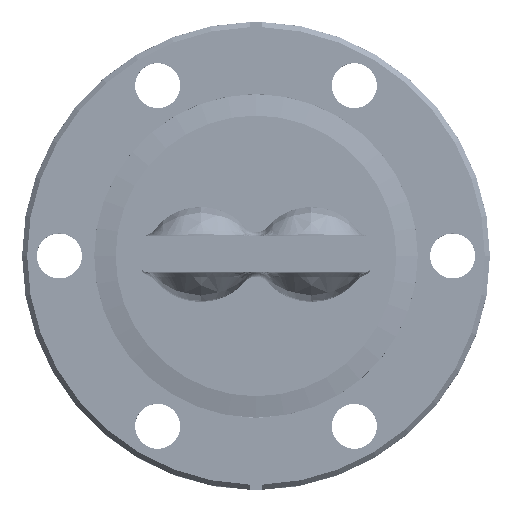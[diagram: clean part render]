
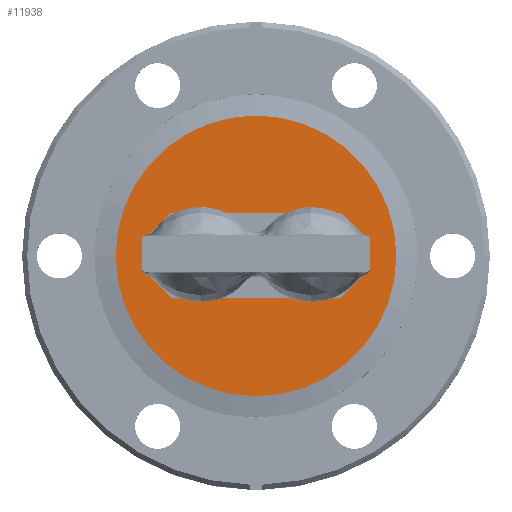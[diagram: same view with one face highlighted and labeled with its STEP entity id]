
A CAD part, top view. The second image highlights one B-rep face of the part: STEP entity #11938.
In plain terms, the highlighted planar face has unit normal (0, 0, 1).
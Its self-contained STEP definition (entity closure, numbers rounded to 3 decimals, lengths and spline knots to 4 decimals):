
#223=FACE_BOUND('',#2752,.T.);
#224=FACE_BOUND('',#2753,.T.);
#225=FACE_BOUND('',#2754,.T.);
#347=PLANE('',#12986);
#675=B_SPLINE_CURVE_WITH_KNOTS('',3,(#17679,#17680,#17681,#17682,#17683,
#17684,#17685,#17686,#17687,#17688,#17689,#17690,#17691,#17692,#17693,#17694,
#17695,#17696,#17697,#17698,#17699,#17700,#17701,#17702,#17703),
 .UNSPECIFIED.,.F.,.F.,(4,3,3,3,3,3,3,3,4),(0.,0.0268,0.0441,
0.0652,0.0816,0.0959,0.1108,
0.136,0.1605),.UNSPECIFIED.);
#679=B_SPLINE_CURVE_WITH_KNOTS('',3,(#18148,#18149,#18150,#18151,#18152,
#18153,#18154,#18155,#18156,#18157,#18158,#18159,#18160,#18161,#18162,#18163,
#18164,#18165,#18166,#18167,#18168,#18169,#18170,#18171,#18172,#18173,#18174,
#18175,#18176,#18177,#18178),.UNSPECIFIED.,.F.,.F.,(4,3,3,3,3,3,3,3,3,3,
4),(0.,0.0276,0.0404,0.054,0.0795,
0.0936,0.1037,0.1183,0.133,
0.1513,0.1612),.UNSPECIFIED.);
#2025=FACE_OUTER_BOUND('',#2751,.T.);
#2751=EDGE_LOOP('',(#8623));
#2752=EDGE_LOOP('',(#8624,#8625,#8626,#8627));
#2753=EDGE_LOOP('',(#8628));
#2754=EDGE_LOOP('',(#8629));
#4331=CIRCLE('',#12687,0.0351);
#4333=CIRCLE('',#12703,0.043);
#4358=CIRCLE('',#12736,0.2475);
#4423=CIRCLE('',#12836,0.2475);
#4500=CIRCLE('',#12954,0.825);
#4782=VERTEX_POINT('',#16882);
#4783=VERTEX_POINT('',#16896);
#4814=VERTEX_POINT('',#17243);
#4815=VERTEX_POINT('',#17249);
#4836=VERTEX_POINT('',#18262);
#4908=VERTEX_POINT('',#18583);
#4992=VERTEX_POINT('',#18940);
#6055=EDGE_CURVE('',#4783,#4782,#4331,.T.);
#6099=EDGE_CURVE('',#4815,#4814,#4333,.T.);
#6104=EDGE_CURVE('',#4782,#4815,#675,.T.);
#6108=EDGE_CURVE('',#4814,#4783,#679,.T.);
#6133=EDGE_CURVE('',#4836,#4836,#4358,.T.);
#6245=EDGE_CURVE('',#4908,#4908,#4423,.T.);
#6375=EDGE_CURVE('',#4992,#4992,#4500,.T.);
#8623=ORIENTED_EDGE('',*,*,#6375,.T.);
#8624=ORIENTED_EDGE('',*,*,#6108,.T.);
#8625=ORIENTED_EDGE('',*,*,#6055,.T.);
#8626=ORIENTED_EDGE('',*,*,#6104,.T.);
#8627=ORIENTED_EDGE('',*,*,#6099,.T.);
#8628=ORIENTED_EDGE('',*,*,#6133,.F.);
#8629=ORIENTED_EDGE('',*,*,#6245,.F.);
#11938=ADVANCED_FACE('',(#2025,#223,#224,#225),#347,.T.);
#12687=AXIS2_PLACEMENT_3D('',#16897,#13779,#13780);
#12703=AXIS2_PLACEMENT_3D('',#17250,#13825,#13826);
#12736=AXIS2_PLACEMENT_3D('',#18263,#13891,#13892);
#12836=AXIS2_PLACEMENT_3D('',#18584,#14126,#14127);
#12954=AXIS2_PLACEMENT_3D('',#18941,#14403,#14404);
#12986=AXIS2_PLACEMENT_3D('',#19026,#14488,#14489);
#13779=DIRECTION('center_axis',(0.,0.,-1.));
#13780=DIRECTION('ref_axis',(-1.,0.,0.));
#13825=DIRECTION('center_axis',(0.,0.,-1.));
#13826=DIRECTION('ref_axis',(-1.,0.,0.));
#13891=DIRECTION('center_axis',(0.,0.,1.));
#13892=DIRECTION('ref_axis',(1.,0.,0.));
#14126=DIRECTION('center_axis',(0.,0.,1.));
#14127=DIRECTION('ref_axis',(1.,0.,0.));
#14403=DIRECTION('center_axis',(0.,0.,1.));
#14404=DIRECTION('ref_axis',(-1.,0.,0.));
#14488=DIRECTION('center_axis',(0.,0.,1.));
#14489=DIRECTION('ref_axis',(-1.,0.,0.));
#16882=CARTESIAN_POINT('',(-0.0303,-0.0177,0.));
#16896=CARTESIAN_POINT('',(0.0303,-0.0177,0.));
#16897=CARTESIAN_POINT('Origin',(0.,0.,0.));
#17243=CARTESIAN_POINT('',(0.0204,0.0379,0.));
#17249=CARTESIAN_POINT('',(-0.0203,0.0378,0.));
#17250=CARTESIAN_POINT('Origin',(0.,0.,0.));
#17679=CARTESIAN_POINT('Ctrl Pts',(-0.0303,-0.0177,
0.));
#17680=CARTESIAN_POINT('Ctrl Pts',(-0.0325,-0.0149,
0.));
#17681=CARTESIAN_POINT('Ctrl Pts',(-0.0342,-0.0119,
0.));
#17682=CARTESIAN_POINT('Ctrl Pts',(-0.0354,-0.0086,
0.));
#17683=CARTESIAN_POINT('Ctrl Pts',(-0.0363,-0.0065,
0.));
#17684=CARTESIAN_POINT('Ctrl Pts',(-0.0369,-0.0043,
0.));
#17685=CARTESIAN_POINT('Ctrl Pts',(-0.0373,-0.002,
0.));
#17686=CARTESIAN_POINT('Ctrl Pts',(-0.0378,0.0007,
0.));
#17687=CARTESIAN_POINT('Ctrl Pts',(-0.038,0.0035,
0.));
#17688=CARTESIAN_POINT('Ctrl Pts',(-0.038,0.0062,
0.));
#17689=CARTESIAN_POINT('Ctrl Pts',(-0.0379,0.0084,
0.));
#17690=CARTESIAN_POINT('Ctrl Pts',(-0.0377,0.0106,
0.));
#17691=CARTESIAN_POINT('Ctrl Pts',(-0.0373,0.0127,
0.));
#17692=CARTESIAN_POINT('Ctrl Pts',(-0.0369,0.0145,
0.));
#17693=CARTESIAN_POINT('Ctrl Pts',(-0.0364,0.0163,
0.));
#17694=CARTESIAN_POINT('Ctrl Pts',(-0.0358,0.018,
0.));
#17695=CARTESIAN_POINT('Ctrl Pts',(-0.0351,0.0199,
0.));
#17696=CARTESIAN_POINT('Ctrl Pts',(-0.0343,0.0216,
0.));
#17697=CARTESIAN_POINT('Ctrl Pts',(-0.0334,0.0233,
0.));
#17698=CARTESIAN_POINT('Ctrl Pts',(-0.0318,0.0262,
0.));
#17699=CARTESIAN_POINT('Ctrl Pts',(-0.0299,0.0289,
0.));
#17700=CARTESIAN_POINT('Ctrl Pts',(-0.0276,0.0314,
0.));
#17701=CARTESIAN_POINT('Ctrl Pts',(-0.0254,0.0338,
0.));
#17702=CARTESIAN_POINT('Ctrl Pts',(-0.023,0.0359,
0.));
#17703=CARTESIAN_POINT('Ctrl Pts',(-0.0203,0.0378,
0.));
#18148=CARTESIAN_POINT('Ctrl Pts',(0.0204,0.0379,
0.));
#18149=CARTESIAN_POINT('Ctrl Pts',(0.0234,0.0358,
0.));
#18150=CARTESIAN_POINT('Ctrl Pts',(0.026,0.0333,
0.));
#18151=CARTESIAN_POINT('Ctrl Pts',(0.0284,0.0306,
0.));
#18152=CARTESIAN_POINT('Ctrl Pts',(0.0294,0.0293,
0.));
#18153=CARTESIAN_POINT('Ctrl Pts',(0.0304,0.0279,
0.));
#18154=CARTESIAN_POINT('Ctrl Pts',(0.0314,0.0265,
0.));
#18155=CARTESIAN_POINT('Ctrl Pts',(0.0323,0.025,
0.));
#18156=CARTESIAN_POINT('Ctrl Pts',(0.0332,0.0235,
0.));
#18157=CARTESIAN_POINT('Ctrl Pts',(0.034,0.0219,
0.));
#18158=CARTESIAN_POINT('Ctrl Pts',(0.0355,0.0189,
0.));
#18159=CARTESIAN_POINT('Ctrl Pts',(0.0366,0.0157,
0.));
#18160=CARTESIAN_POINT('Ctrl Pts',(0.0373,0.0125,
0.));
#18161=CARTESIAN_POINT('Ctrl Pts',(0.0376,0.0107,
0.));
#18162=CARTESIAN_POINT('Ctrl Pts',(0.0379,0.0089,
0.));
#18163=CARTESIAN_POINT('Ctrl Pts',(0.038,0.0071,
0.));
#18164=CARTESIAN_POINT('Ctrl Pts',(0.0381,0.0057,
0.));
#18165=CARTESIAN_POINT('Ctrl Pts',(0.0381,0.0044,
0.));
#18166=CARTESIAN_POINT('Ctrl Pts',(0.038,0.0031,
0.));
#18167=CARTESIAN_POINT('Ctrl Pts',(0.0379,0.0012,
0.));
#18168=CARTESIAN_POINT('Ctrl Pts',(0.0377,-0.0007,
0.));
#18169=CARTESIAN_POINT('Ctrl Pts',(0.0373,-0.0025,
0.));
#18170=CARTESIAN_POINT('Ctrl Pts',(0.0369,-0.0044,
0.));
#18171=CARTESIAN_POINT('Ctrl Pts',(0.0364,-0.0062,
0.));
#18172=CARTESIAN_POINT('Ctrl Pts',(0.0357,-0.008,
0.));
#18173=CARTESIAN_POINT('Ctrl Pts',(0.0348,-0.0103,
0.));
#18174=CARTESIAN_POINT('Ctrl Pts',(0.0338,-0.0124,
0.));
#18175=CARTESIAN_POINT('Ctrl Pts',(0.0325,-0.0145,
0.));
#18176=CARTESIAN_POINT('Ctrl Pts',(0.0318,-0.0156,
0.));
#18177=CARTESIAN_POINT('Ctrl Pts',(0.0311,-0.0167,
0.));
#18178=CARTESIAN_POINT('Ctrl Pts',(0.0303,-0.0177,
0.));
#18262=CARTESIAN_POINT('',(0.6225,0.,0.));
#18263=CARTESIAN_POINT('Origin',(0.375,0.,
0.));
#18583=CARTESIAN_POINT('',(-0.6225,0.,0.));
#18584=CARTESIAN_POINT('Origin',(-0.375,0.,
0.));
#18940=CARTESIAN_POINT('',(0.825,0.,0.));
#18941=CARTESIAN_POINT('Origin',(0.,0.,0.));
#19026=CARTESIAN_POINT('Origin',(0.,0.825,0.));
